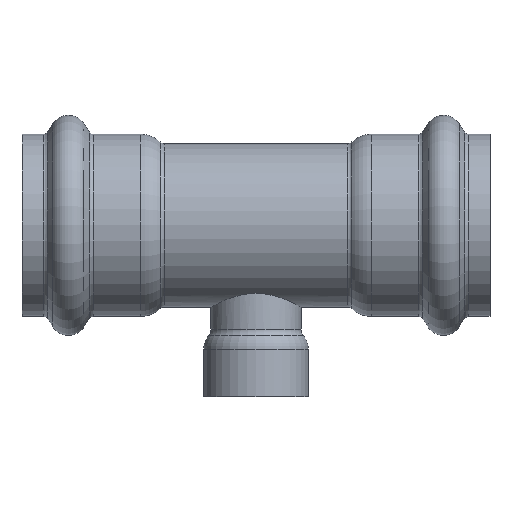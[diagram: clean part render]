
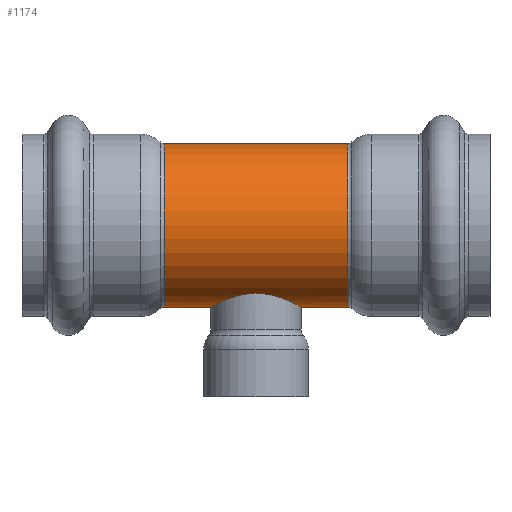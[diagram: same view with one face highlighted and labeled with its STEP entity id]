
A CAD part, top view. The second image highlights one B-rep face of the part: STEP entity #1174.
In plain terms, the highlighted cylindrical face has radius 24.13 mm (diameter 48.26 mm), a full revolution.
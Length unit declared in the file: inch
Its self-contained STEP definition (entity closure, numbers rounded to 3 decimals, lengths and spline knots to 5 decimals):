
#112=FACE_OUTER_BOUND('',#163,.T.);
#163=EDGE_LOOP('',(#924,#925,#926,#927,#928,#929,#930,#931,#932,#933,#934,
#935,#936,#937));
#270=CIRCLE('',#1329,0.95);
#271=CIRCLE('',#1330,0.95);
#272=CIRCLE('',#1331,0.95);
#273=CIRCLE('',#1333,0.95);
#274=CIRCLE('',#1334,0.95);
#275=CIRCLE('',#1335,0.95);
#350=LINE('',#2208,#374);
#351=LINE('',#2209,#375);
#374=VECTOR('',#1686,0.95);
#375=VECTOR('',#1687,0.95);
#384=B_SPLINE_CURVE_WITH_KNOTS('',3,(#1886,#1887,#1888,#1889,#1890,#1891,
#1892,#1893,#1894,#1895,#1896,#1897,#1898,#1899),.UNSPECIFIED.,.F.,.F.,
(4,2,2,2,2,2,4),(0.,0.25822,0.51643,1.03286,
1.54705,1.80414,2.06124),.UNSPECIFIED.);
#385=B_SPLINE_CURVE_WITH_KNOTS('',3,(#1901,#1902,#1903,#1904,#1905,#1906,
#1907,#1908,#1909,#1910,#1911,#1912,#1913,#1914),.UNSPECIFIED.,.F.,.F.,
(4,2,2,2,2,2,4),(6.18371,6.44081,6.6979,7.21209,
7.72852,7.98673,8.24495),.UNSPECIFIED.);
#386=B_SPLINE_CURVE_WITH_KNOTS('',3,(#1916,#1917,#1918,#1919,#1920,#1921,
#1922,#1923,#1924,#1925,#1926,#1927,#1928,#1929),.UNSPECIFIED.,.F.,.F.,
(4,2,2,2,2,2,4),(4.12247,4.38069,4.63891,5.15534,
5.66952,5.92662,6.18371),.UNSPECIFIED.);
#387=B_SPLINE_CURVE_WITH_KNOTS('',3,(#1935,#1936,#1937,#1938,#1939,#1940,
#1941,#1942,#1943,#1944,#1945,#1946,#1947,#1948),.UNSPECIFIED.,.F.,.F.,
(4,2,2,2,2,2,4),(2.06124,2.31833,2.57543,3.08961,
3.60604,3.86426,4.12247),.UNSPECIFIED.);
#392=VERTEX_POINT('',#1884);
#393=VERTEX_POINT('',#1885);
#394=VERTEX_POINT('',#1900);
#395=VERTEX_POINT('',#1915);
#472=VERTEX_POINT('',#2195);
#473=VERTEX_POINT('',#2197);
#474=VERTEX_POINT('',#2199);
#475=VERTEX_POINT('',#2203);
#476=VERTEX_POINT('',#2204);
#477=VERTEX_POINT('',#2206);
#528=EDGE_CURVE('',#392,#393,#384,.T.);
#529=EDGE_CURVE('',#394,#392,#385,.T.);
#530=EDGE_CURVE('',#395,#394,#386,.T.);
#534=EDGE_CURVE('',#393,#395,#387,.T.);
#636=EDGE_CURVE('',#473,#472,#270,.T.);
#637=EDGE_CURVE('',#474,#473,#271,.T.);
#638=EDGE_CURVE('',#472,#474,#272,.T.);
#639=EDGE_CURVE('',#475,#476,#273,.T.);
#640=EDGE_CURVE('',#477,#475,#274,.T.);
#641=EDGE_CURVE('',#477,#393,#350,.T.);
#642=EDGE_CURVE('',#394,#474,#351,.T.);
#643=EDGE_CURVE('',#476,#477,#275,.T.);
#924=ORIENTED_EDGE('',*,*,#639,.F.);
#925=ORIENTED_EDGE('',*,*,#640,.F.);
#926=ORIENTED_EDGE('',*,*,#641,.T.);
#927=ORIENTED_EDGE('',*,*,#534,.T.);
#928=ORIENTED_EDGE('',*,*,#530,.T.);
#929=ORIENTED_EDGE('',*,*,#642,.T.);
#930=ORIENTED_EDGE('',*,*,#637,.T.);
#931=ORIENTED_EDGE('',*,*,#636,.T.);
#932=ORIENTED_EDGE('',*,*,#638,.T.);
#933=ORIENTED_EDGE('',*,*,#642,.F.);
#934=ORIENTED_EDGE('',*,*,#529,.T.);
#935=ORIENTED_EDGE('',*,*,#528,.T.);
#936=ORIENTED_EDGE('',*,*,#641,.F.);
#937=ORIENTED_EDGE('',*,*,#643,.F.);
#1089=CYLINDRICAL_SURFACE('',#1332,0.95);
#1174=ADVANCED_FACE('',(#112),#1089,.T.);
#1329=AXIS2_PLACEMENT_3D('',#2198,#1674,#1675);
#1330=AXIS2_PLACEMENT_3D('',#2200,#1676,#1677);
#1331=AXIS2_PLACEMENT_3D('',#2201,#1678,#1679);
#1332=AXIS2_PLACEMENT_3D('',#2202,#1680,#1681);
#1333=AXIS2_PLACEMENT_3D('',#2205,#1682,#1683);
#1334=AXIS2_PLACEMENT_3D('',#2207,#1684,#1685);
#1335=AXIS2_PLACEMENT_3D('',#2210,#1688,#1689);
#1674=DIRECTION('center_axis',(1.,0.,0.));
#1675=DIRECTION('ref_axis',(0.,1.,0.));
#1676=DIRECTION('center_axis',(1.,0.,0.));
#1677=DIRECTION('ref_axis',(0.,1.,0.));
#1678=DIRECTION('center_axis',(1.,0.,0.));
#1679=DIRECTION('ref_axis',(0.,1.,0.));
#1680=DIRECTION('center_axis',(1.,0.,0.));
#1681=DIRECTION('ref_axis',(0.,1.,0.));
#1682=DIRECTION('center_axis',(1.,0.,0.));
#1683=DIRECTION('ref_axis',(0.,1.,0.));
#1684=DIRECTION('center_axis',(1.,0.,0.));
#1685=DIRECTION('ref_axis',(0.,1.,0.));
#1686=DIRECTION('',(-1.,0.,0.));
#1687=DIRECTION('',(-1.,0.,0.));
#1688=DIRECTION('center_axis',(1.,0.,0.));
#1689=DIRECTION('ref_axis',(0.,1.,0.));
#1884=CARTESIAN_POINT('',(0.,-0.79175,0.525));
#1885=CARTESIAN_POINT('',(0.525,-0.95,0.));
#1886=CARTESIAN_POINT('Ctrl Pts',(0.,-0.79175,
0.525));
#1887=CARTESIAN_POINT('Ctrl Pts',(0.03389,-0.79175,
0.525));
#1888=CARTESIAN_POINT('Ctrl Pts',(0.06859,-0.79399,
0.52167));
#1889=CARTESIAN_POINT('Ctrl Pts',(0.13706,-0.80281,0.508));
#1890=CARTESIAN_POINT('Ctrl Pts',(0.17081,-0.80937,
0.49766));
#1891=CARTESIAN_POINT('Ctrl Pts',(0.26733,-0.83334,0.4572));
#1892=CARTESIAN_POINT('Ctrl Pts',(0.32533,-0.85498,
0.41713));
#1893=CARTESIAN_POINT('Ctrl Pts',(0.41693,-0.89386,
0.32553));
#1894=CARTESIAN_POINT('Ctrl Pts',(0.45714,-0.91396,
0.26747));
#1895=CARTESIAN_POINT('Ctrl Pts',(0.49769,-0.93512,0.17073));
#1896=CARTESIAN_POINT('Ctrl Pts',(0.50804,-0.94072,
0.1369));
#1897=CARTESIAN_POINT('Ctrl Pts',(0.52169,-0.94816,
0.0684));
#1898=CARTESIAN_POINT('Ctrl Pts',(0.525,-0.95,0.03374));
#1899=CARTESIAN_POINT('Ctrl Pts',(0.525,-0.95,0.));
#1900=CARTESIAN_POINT('',(-0.525,-0.95,0.));
#1901=CARTESIAN_POINT('Ctrl Pts',(-0.525,-0.95,0.));
#1902=CARTESIAN_POINT('Ctrl Pts',(-0.525,-0.95,0.03374));
#1903=CARTESIAN_POINT('Ctrl Pts',(-0.52169,-0.94816,
0.0684));
#1904=CARTESIAN_POINT('Ctrl Pts',(-0.50804,-0.94072,
0.1369));
#1905=CARTESIAN_POINT('Ctrl Pts',(-0.49769,-0.93512,0.17073));
#1906=CARTESIAN_POINT('Ctrl Pts',(-0.45714,-0.91396,
0.26747));
#1907=CARTESIAN_POINT('Ctrl Pts',(-0.41693,-0.89386,
0.32553));
#1908=CARTESIAN_POINT('Ctrl Pts',(-0.32533,-0.85498,
0.41713));
#1909=CARTESIAN_POINT('Ctrl Pts',(-0.26733,-0.83334,
0.4572));
#1910=CARTESIAN_POINT('Ctrl Pts',(-0.17081,-0.80937,
0.49766));
#1911=CARTESIAN_POINT('Ctrl Pts',(-0.13706,-0.80281,
0.508));
#1912=CARTESIAN_POINT('Ctrl Pts',(-0.06859,-0.79399,
0.52167));
#1913=CARTESIAN_POINT('Ctrl Pts',(-0.03389,-0.79175,
0.525));
#1914=CARTESIAN_POINT('Ctrl Pts',(0.,-0.79175,
0.525));
#1915=CARTESIAN_POINT('',(0.,-0.79175,-0.525));
#1916=CARTESIAN_POINT('Ctrl Pts',(0.,-0.79175,
-0.525));
#1917=CARTESIAN_POINT('Ctrl Pts',(-0.03389,-0.79175,
-0.525));
#1918=CARTESIAN_POINT('Ctrl Pts',(-0.06859,-0.79399,
-0.52167));
#1919=CARTESIAN_POINT('Ctrl Pts',(-0.13706,-0.80281,
-0.508));
#1920=CARTESIAN_POINT('Ctrl Pts',(-0.17081,-0.80937,
-0.49766));
#1921=CARTESIAN_POINT('Ctrl Pts',(-0.26733,-0.83334,
-0.4572));
#1922=CARTESIAN_POINT('Ctrl Pts',(-0.32533,-0.85498,
-0.41713));
#1923=CARTESIAN_POINT('Ctrl Pts',(-0.41693,-0.89386,
-0.32553));
#1924=CARTESIAN_POINT('Ctrl Pts',(-0.45714,-0.91396,
-0.26747));
#1925=CARTESIAN_POINT('Ctrl Pts',(-0.49769,-0.93512,-0.17073));
#1926=CARTESIAN_POINT('Ctrl Pts',(-0.50804,-0.94072,
-0.1369));
#1927=CARTESIAN_POINT('Ctrl Pts',(-0.52169,-0.94816,
-0.0684));
#1928=CARTESIAN_POINT('Ctrl Pts',(-0.525,-0.95,-0.03374));
#1929=CARTESIAN_POINT('Ctrl Pts',(-0.525,-0.95,0.));
#1935=CARTESIAN_POINT('Ctrl Pts',(0.525,-0.95,0.));
#1936=CARTESIAN_POINT('Ctrl Pts',(0.525,-0.95,-0.03374));
#1937=CARTESIAN_POINT('Ctrl Pts',(0.52169,-0.94816,
-0.0684));
#1938=CARTESIAN_POINT('Ctrl Pts',(0.50804,-0.94072,
-0.1369));
#1939=CARTESIAN_POINT('Ctrl Pts',(0.49769,-0.93512,-0.17073));
#1940=CARTESIAN_POINT('Ctrl Pts',(0.45714,-0.91396,
-0.26747));
#1941=CARTESIAN_POINT('Ctrl Pts',(0.41693,-0.89386,
-0.32553));
#1942=CARTESIAN_POINT('Ctrl Pts',(0.32533,-0.85498,
-0.41713));
#1943=CARTESIAN_POINT('Ctrl Pts',(0.26733,-0.83334,
-0.4572));
#1944=CARTESIAN_POINT('Ctrl Pts',(0.17081,-0.80937,
-0.49766));
#1945=CARTESIAN_POINT('Ctrl Pts',(0.13706,-0.80281,
-0.508));
#1946=CARTESIAN_POINT('Ctrl Pts',(0.06859,-0.79399,
-0.52167));
#1947=CARTESIAN_POINT('Ctrl Pts',(0.03389,-0.79175,
-0.525));
#1948=CARTESIAN_POINT('Ctrl Pts',(0.,-0.79175,
-0.525));
#2195=CARTESIAN_POINT('',(-1.06635,0.,0.95));
#2197=CARTESIAN_POINT('',(-1.06635,0.95,0.));
#2198=CARTESIAN_POINT('Origin',(-1.06635,0.,0.));
#2199=CARTESIAN_POINT('',(-1.06635,-0.95,0.));
#2200=CARTESIAN_POINT('Origin',(-1.06635,0.,0.));
#2201=CARTESIAN_POINT('Origin',(-1.06635,0.,0.));
#2202=CARTESIAN_POINT('Origin',(0.53318,0.,0.));
#2203=CARTESIAN_POINT('',(1.06635,0.95,0.));
#2204=CARTESIAN_POINT('',(1.06635,0.,0.95));
#2205=CARTESIAN_POINT('Origin',(1.06635,0.,0.));
#2206=CARTESIAN_POINT('',(1.06635,-0.95,0.));
#2207=CARTESIAN_POINT('Origin',(1.06635,0.,0.));
#2208=CARTESIAN_POINT('',(0.53318,-0.95,0.));
#2209=CARTESIAN_POINT('',(0.53318,-0.95,0.));
#2210=CARTESIAN_POINT('Origin',(1.06635,0.,0.));
